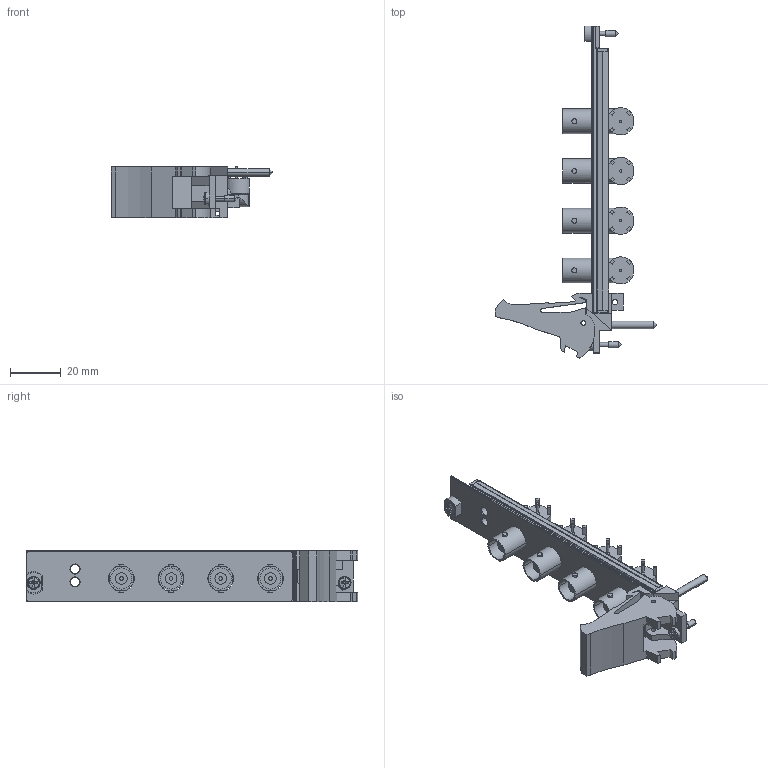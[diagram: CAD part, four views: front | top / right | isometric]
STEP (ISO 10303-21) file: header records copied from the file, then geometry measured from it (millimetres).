
FILE_DESCRIPTION((''),'2;1');
FILE_NAME('CU_PXI-5402','2009-10-23T',('jjorden'),(''),'PRO/ENGINEER BY PARAMETRIC TECHNOLOGY CORPORATION, 2006080','PRO/ENGINEER BY PARAMETRIC TECHNOLOGY CORPORATION, 2006080','');
FILE_SCHEMA(('CONFIG_CONTROL_DESIGN'));
Length unit declared in the file: inch
Products named in the file (1): CU_PXI-5402
Bounding box: 63.53 x 130.62 x 20.31 mm (x, y, z)
Volume: 21694.6 mm3; surface area: 21061.9 mm2
Topology: 6 solids, 6 shells, 515 faces, 1340 edges, 872 vertices
Faces by surface type: plane 298, cylinder 185, cone 24, torus 4, sphere 4
Entity records: 16762 total; most frequent: CARTESIAN_POINT 3779, DIRECTION 2733, ORIENTED_EDGE 2672, EDGE_CURVE 1336, AXIS2_PLACEMENT_3D 951, VERTEX_POINT 872, VECTOR 831, LINE 831
